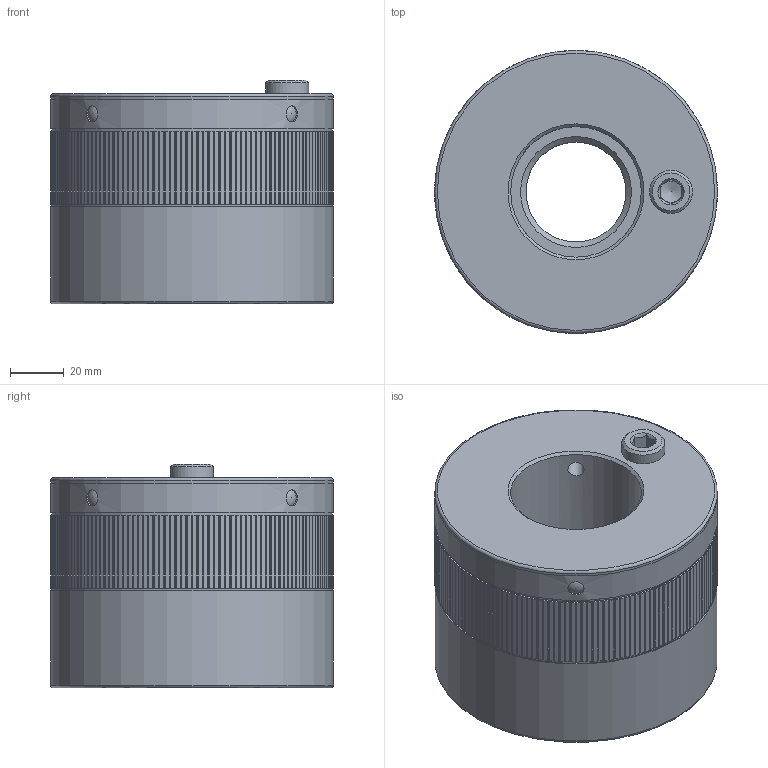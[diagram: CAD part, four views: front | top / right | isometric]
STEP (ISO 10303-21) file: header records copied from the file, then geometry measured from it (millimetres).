
FILE_DESCRIPTION(/* description */ ('Unknown','CAx-IF Rec.Pracs.---Representation and Presentation of Product Manufacturing Information (PMI)---4.0---2014-10-13','CAx-IF Rec.Pracs.---3D Tessellated Geometry---0.4---2014-09-14','2;1'),/* implementation_level */ '2;1');
FILE_NAME(/* name */ 'MDA 180_SW8_M42',/* time_stamp */ '2023-09-15T11:30:59+02:00',/* author */ ('Unknown'),/* organization */ ('Unknown'),/* preprocessor_version */ 'ST-DEVELOPER v18.102',/* originating_system */ 'Solid Edge',/* authorisation */ 'Unknown');
FILE_SCHEMA (('AP242_MANAGED_MODEL_BASED_3D_ENGINEERING_MIM_LF { 1 0 10303 442 1 1 4 }'));
Length unit declared in the file: millimetre
Products named in the file (7): 05933096; 43733051; 42231918; KT100003; 46431916; KT100869; 46331557
Assembly tree (9 placements, depth 2):
  05933096
    43733051
    42231918
    KT100003  x4
    46431916
    KT100869
    46331557
Bounding box: 105 x 105 x 83 mm (x, y, z)
Volume: 495015.4 mm3; surface area: 143039.7 mm2
Topology: 9 solids, 9 shells, 612 faces, 1743 edges, 1150 vertices
Faces by surface type: plane 354, cylinder 205, cone 31, torus 10, sphere 8, bspline 4
Full cylindrical faces by diameter (mm): 1.6 x1, 6 x12, 8 x1, 16 x2, 16.5 x1, 37.129 x1, 48.5 x1, 62 x3, 83.2 x1, 88 x1, 90 x1, 95.5 x1, 95.9 x1, 96 x3, 104 x2, 105 x3
Entity records: 19819 total; most frequent: CARTESIAN_POINT 3880, ORIENTED_EDGE 3220, DIRECTION 3218, EDGE_CURVE 1610, LINE 1154, VECTOR 1154, VERTEX_POINT 1106, AXIS2_PLACEMENT_3D 1032
